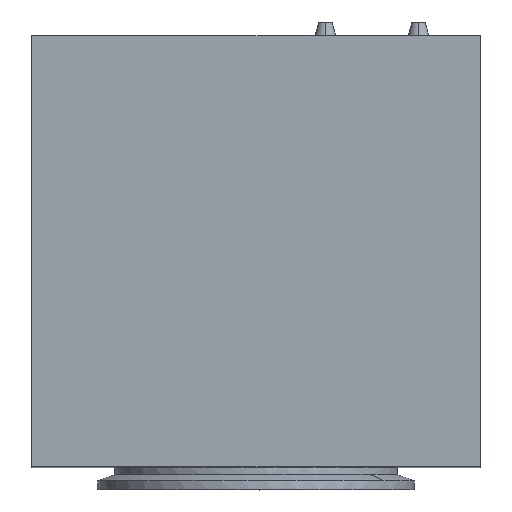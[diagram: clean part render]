
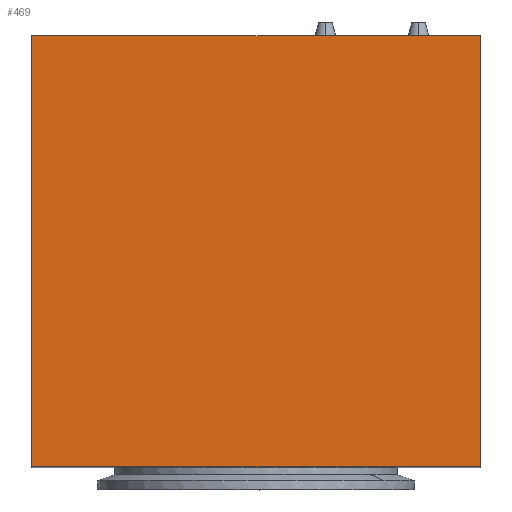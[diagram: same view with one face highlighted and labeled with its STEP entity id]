
A CAD part, top view. The second image highlights one B-rep face of the part: STEP entity #469.
In plain terms, the highlighted planar face has unit normal (0, 0, 1).
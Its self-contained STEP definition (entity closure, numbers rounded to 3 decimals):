
#469=ADVANCED_FACE('',(#675),#3239,.T.);
#675=FACE_OUTER_BOUND('',#882,.T.);
#882=EDGE_LOOP('',(#1261,#1262,#1263,#1264));
#1261=ORIENTED_EDGE('',*,*,#2150,.T.);
#1262=ORIENTED_EDGE('',*,*,#2151,.T.);
#1263=ORIENTED_EDGE('',*,*,#2152,.T.);
#1264=ORIENTED_EDGE('',*,*,#2153,.T.);
#2150=EDGE_CURVE('',#2947,#2948,#2628,.T.);
#2151=EDGE_CURVE('',#2948,#2949,#2629,.T.);
#2152=EDGE_CURVE('',#2949,#2950,#2630,.T.);
#2153=EDGE_CURVE('',#2950,#2947,#2631,.T.);
#2628=B_SPLINE_CURVE_WITH_KNOTS('',1,(#5125,#5126),.UNSPECIFIED.,.F.,.F.,
(2,2),(0.,660.),.UNSPECIFIED.);
#2629=B_SPLINE_CURVE_WITH_KNOTS('',1,(#5127,#5128),.UNSPECIFIED.,.F.,.F.,
(2,2),(0.,633.75),.UNSPECIFIED.);
#2630=B_SPLINE_CURVE_WITH_KNOTS('',1,(#5129,#5130),.UNSPECIFIED.,.F.,.F.,
(2,2),(0.,660.),.UNSPECIFIED.);
#2631=B_SPLINE_CURVE_WITH_KNOTS('',1,(#5131,#5132),.UNSPECIFIED.,.F.,.F.,
(2,2),(0.,633.75),.UNSPECIFIED.);
#2947=VERTEX_POINT('',#5113);
#2948=VERTEX_POINT('',#5114);
#2949=VERTEX_POINT('',#5115);
#2950=VERTEX_POINT('',#5116);
#3239=PLANE('',#3368);
#3368=AXIS2_PLACEMENT_3D('',#5104,#3535,$);
#3535=DIRECTION('',(0.,0.,1.));
#5104=CARTESIAN_POINT('',(396.,697.125,900.));
#5113=CARTESIAN_POINT('',(330.,633.75,900.));
#5114=CARTESIAN_POINT('',(-330.,633.75,900.));
#5115=CARTESIAN_POINT('',(-330.,0.,900.));
#5116=CARTESIAN_POINT('',(330.,0.,900.));
#5125=CARTESIAN_POINT('',(330.,633.75,900.));
#5126=CARTESIAN_POINT('',(-330.,633.75,900.));
#5127=CARTESIAN_POINT('',(-330.,633.75,900.));
#5128=CARTESIAN_POINT('',(-330.,0.,900.));
#5129=CARTESIAN_POINT('',(-330.,0.,900.));
#5130=CARTESIAN_POINT('',(330.,0.,900.));
#5131=CARTESIAN_POINT('',(330.,0.,900.));
#5132=CARTESIAN_POINT('',(330.,633.75,900.));
